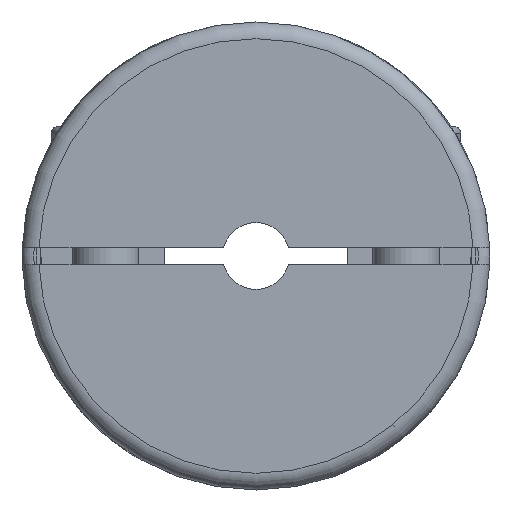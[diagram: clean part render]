
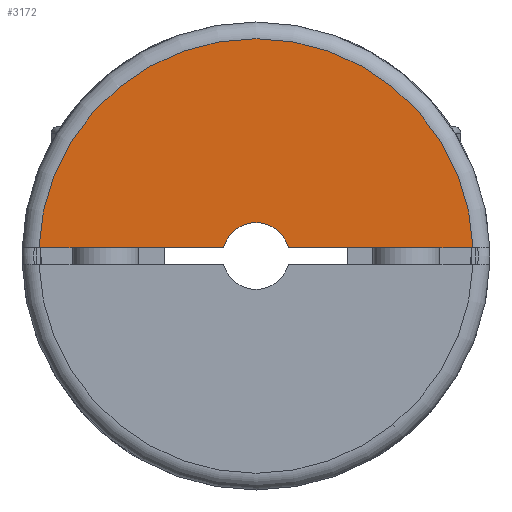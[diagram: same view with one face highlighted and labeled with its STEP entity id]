
A CAD part, left-side view. The second image highlights one B-rep face of the part: STEP entity #3172.
In plain terms, the highlighted planar face has unit normal (-1, 0, 0).
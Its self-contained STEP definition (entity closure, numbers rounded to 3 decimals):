
#66=LINE('',#5115,#206);
#70=LINE('',#5135,#210);
#206=VECTOR('',#3981,1000.);
#210=VECTOR('',#3987,1000.);
#412=PLANE('',#3473);
#604=ORIENTED_EDGE('',*,*,#1352,.F.);
#605=ORIENTED_EDGE('',*,*,#1333,.F.);
#606=ORIENTED_EDGE('',*,*,#1354,.T.);
#607=ORIENTED_EDGE('',*,*,#1339,.F.);
#1333=EDGE_CURVE('',#1715,#1716,#66,.T.);
#1339=EDGE_CURVE('',#1721,#1722,#70,.T.);
#1352=EDGE_CURVE('',#1716,#1721,#2024,.T.);
#1354=EDGE_CURVE('',#1715,#1722,#2026,.T.);
#1715=VERTEX_POINT('',#5114);
#1716=VERTEX_POINT('',#5116);
#1721=VERTEX_POINT('',#5136);
#1722=VERTEX_POINT('',#5137);
#2024=CIRCLE('',#3471,26.);
#2026=CIRCLE('',#3474,4.);
#2252=EDGE_LOOP('',(#604,#605,#606,#607));
#2692=FACE_BOUND('',#2252,.T.);
#3172=ADVANCED_FACE('',(#2692),#412,.F.);
#3471=AXIS2_PLACEMENT_3D('',#5168,#4011,#4012);
#3473=AXIS2_PLACEMENT_3D('',#5170,#4015,#4016);
#3474=AXIS2_PLACEMENT_3D('',#5171,#4017,#4018);
#3981=DIRECTION('',(0.,1.,0.));
#3987=DIRECTION('',(0.,1.,0.));
#4011=DIRECTION('',(1.,0.,0.));
#4012=DIRECTION('',(0.,0.,1.));
#4015=DIRECTION('',(1.,0.,0.));
#4016=DIRECTION('',(0.,0.,1.));
#4017=DIRECTION('',(1.,0.,0.));
#4018=DIRECTION('',(0.,0.,1.));
#5114=CARTESIAN_POINT('',(0.,3.873,1.));
#5115=CARTESIAN_POINT('',(0.,0.,1.));
#5116=CARTESIAN_POINT('',(0.,25.981,1.));
#5135=CARTESIAN_POINT('',(0.,0.,1.));
#5136=CARTESIAN_POINT('',(0.,-25.981,1.));
#5137=CARTESIAN_POINT('',(0.,-3.873,1.));
#5168=CARTESIAN_POINT('',(0.,0.,0.));
#5170=CARTESIAN_POINT('',(0.,0.,4.));
#5171=CARTESIAN_POINT('',(0.,0.,0.));
